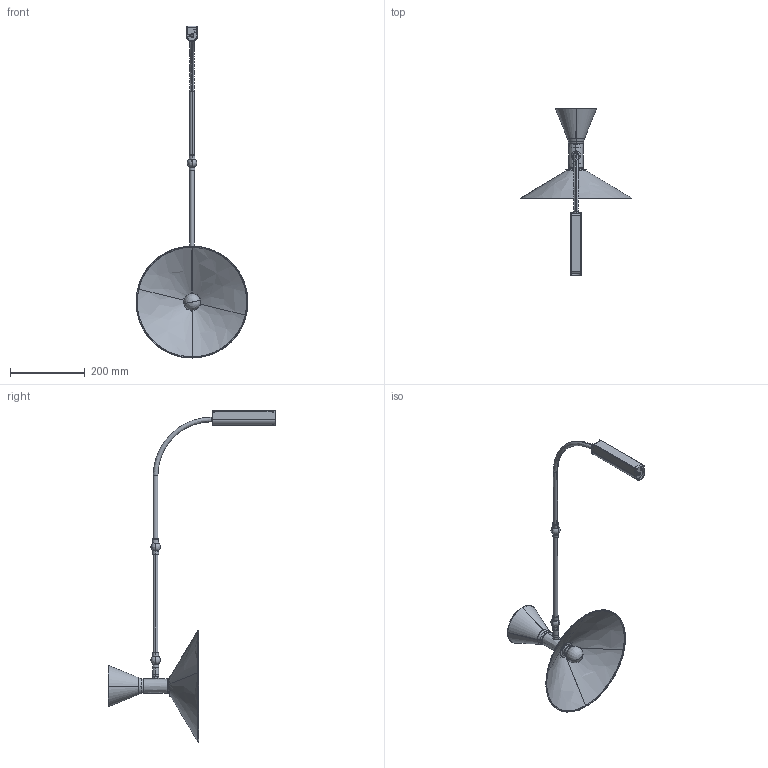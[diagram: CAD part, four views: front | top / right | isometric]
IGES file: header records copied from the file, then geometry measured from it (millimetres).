
Start section: SolidWorks IGES file using analytic representation for surfaces
Global section: file name: C:\Users\tungari.NEMOLIGHTING\Desktop\3D\WALL\3D_LAMPE_DE_MARSEILLE_MINIIII\DEF\3D_LAMPE_DE_MARSEILLE_MINI.IGS; native system: SolidWorks 2016; preprocessor: SolidWorks 2016; author: tungari; date: 180312.202826; units: millimetre
Bounding box: 299.62 x 448.95 x 889.38 mm (x, y, z)
Surface area: 554608.5 mm2 (no closed solid volume)
Topology: 0 solids, 0 shells, 361 faces, 6369 edges, 6359 vertices
Faces by surface type: revolution 181, bspline 180
